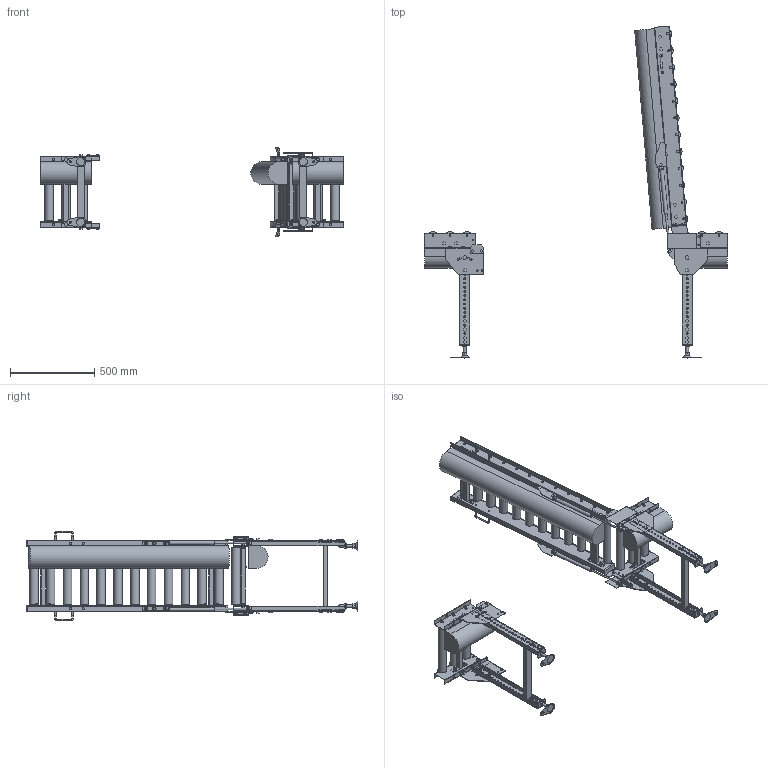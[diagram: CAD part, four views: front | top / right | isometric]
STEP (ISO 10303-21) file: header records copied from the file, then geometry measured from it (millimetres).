
FILE_DESCRIPTION( (''), '2;1');
FILE_NAME ('WEB-MCD50-355-100-120-L-HU.stp','2025-07-01T15:59:48',(''),(''),'spGate 20.6.2 (****-****-****-****)','','');
FILE_SCHEMA (('AUTOMOTIVE_DESIGN'));
Length unit declared in the file: millimetre
Products named in the file (24): WEB-MCD50-355-100-120-L-HU; TEMP_X_T-prt0; TEMP_X_T-prt1; TEMP_X_T-prt2; TEMP_X_T-prt3; TEMP_X_T-prt4; TEMP_X_T-prt5; TEMP_X_T-prt6; TEMP_X_T-prt7; TEMP_X_T-prt8; TEMP_X_T-prt9; TEMP_X_T-prt10; TEMP_X_T-prt11; TEMP_X_T-prt12; TEMP_X_T-prt13; TEMP_X_T-prt14; TEMP_X_T-prt15; TEMP_X_T-prt16; TEMP_X_T-prt17; TEMP_X_T-prt18; TEMP_X_T-prt19; TEMP_X_T-prt20; TEMP_X_T-prt21; TEMP_X_T-prt22
Assembly tree (23 placements, depth 2):
  WEB-MCD50-355-100-120-L-HU
    TEMP_X_T-prt0
    TEMP_X_T-prt1
    TEMP_X_T-prt2
    TEMP_X_T-prt3
    TEMP_X_T-prt4
    TEMP_X_T-prt5
    TEMP_X_T-prt6
    TEMP_X_T-prt7
    TEMP_X_T-prt8
    TEMP_X_T-prt9
    TEMP_X_T-prt10
    TEMP_X_T-prt11
    TEMP_X_T-prt12
    TEMP_X_T-prt13
    TEMP_X_T-prt14
    TEMP_X_T-prt15
    TEMP_X_T-prt16
    TEMP_X_T-prt17
    TEMP_X_T-prt18
    TEMP_X_T-prt19
    TEMP_X_T-prt20
    TEMP_X_T-prt21
    TEMP_X_T-prt22
Bounding box: 1791.65 x 1964.71 x 531.4 mm (x, y, z)
Volume: 42884228.6 mm3; surface area: 4388093.6 mm2
Topology: 23 solids, 49 shells, 2589 faces, 6554 edges, 4315 vertices
Faces by surface type: plane 2128, cylinder 443, bspline 18
Full cylindrical faces by diameter (mm): 8 x8, 8.5 x8, 9 x20, 10 x58, 10.5 x96, 11 x8, 12 x38, 13 x12, 14 x4, 15 x6, 15.4 x2, 15.7 x2, 16 x10, 17 x4, 18 x6, 18.4 x28, 18.5 x8, 21 x12, 22 x2, 50.8 x18
Entity records: 132778 total; most frequent: CARTESIAN_POINT 14968, DIRECTION 13250, ORIENTED_EDGE 13108, COLOUR_RGB 9166, PRESENTATION_STYLE_ASSIGNMENT 9166, STYLED_ITEM 9166, EDGE_CURVE 6554, DRAUGHTING_PRE_DEFINED_CURVE_FONT 6554
